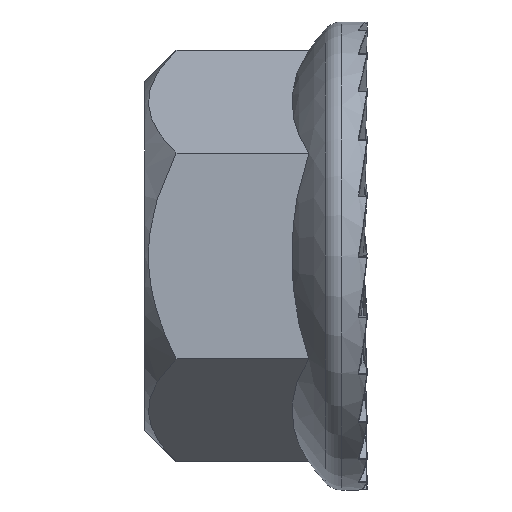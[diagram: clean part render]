
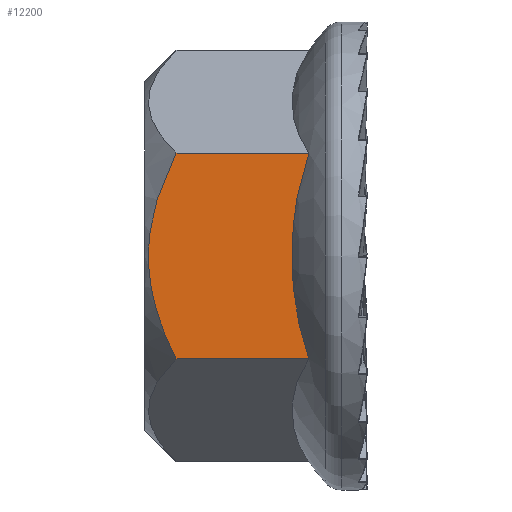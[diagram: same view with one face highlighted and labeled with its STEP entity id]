
A CAD part, left-side view. The second image highlights one B-rep face of the part: STEP entity #12200.
In plain terms, the highlighted planar face has unit normal (-1, 0, 0).
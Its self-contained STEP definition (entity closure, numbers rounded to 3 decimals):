
#78 = CARTESIAN_POINT ( 'NONE',  ( -4., 4.436, -1.573 ) ) ;
#330 = ORIENTED_EDGE ( 'NONE', *, *, #4318, .F. ) ;
#495 = CARTESIAN_POINT ( 'NONE',  ( -4., 1.344, 1.56 ) ) ;
#534 = DIRECTION ( 'NONE',  ( 0., -1., 0. ) ) ;
#886 = CARTESIAN_POINT ( 'NONE',  ( -4., 4.491, 1.382 ) ) ;
#995 = ORIENTED_EDGE ( 'NONE', *, *, #3710, .T. ) ;
#1142 = ORIENTED_EDGE ( 'NONE', *, *, #4683, .F. ) ;
#1168 = B_SPLINE_CURVE_WITH_KNOTS ( 'NONE', 3,
 ( #2125, #5783, #11534, #2889, #886, #6730, #10585, #1941, #4834, #4713, #8685, #78, #2945, #10640 ),
 .UNSPECIFIED., .F., .F.,
 ( 4, 2, 2, 2, 2, 2, 4 ),
 ( 0.006, 0.006, 0.007, 0.008, 0.009, 0.009, 0.011 ),
 .UNSPECIFIED. ) ;
#1545 = CARTESIAN_POINT ( 'NONE',  ( -4., 1.47, 0.781 ) ) ;
#1757 = CARTESIAN_POINT ( 'NONE',  ( -4., 4.8, -2.309 ) ) ;
#1941 = CARTESIAN_POINT ( 'NONE',  ( -4., 4.719, -0.199 ) ) ;
#2090 = CARTESIAN_POINT ( 'NONE',  ( -4., 1.119, 2.309 ) ) ;
#2125 = CARTESIAN_POINT ( 'NONE',  ( -4., 4.1, 2.309 ) ) ;
#2423 = CARTESIAN_POINT ( 'NONE',  ( -4., 1.249, -1.941 ) ) ;
#2629 = PLANE ( 'NONE',  #9233 ) ;
#2824 = DIRECTION ( 'NONE',  ( 1., 0., 0. ) ) ;
#2889 = CARTESIAN_POINT ( 'NONE',  ( -4., 4.423, 1.575 ) ) ;
#2945 = CARTESIAN_POINT ( 'NONE',  ( -4., 4.279, -1.951 ) ) ;
#3102 = LINE ( 'NONE', #12427, #9247 ) ;
#3189 = CARTESIAN_POINT ( 'NONE',  ( -4., 4.1, 2.309 ) ) ;
#3236 = CARTESIAN_POINT ( 'NONE',  ( -4., 4.1, -2.309 ) ) ;
#3710 = EDGE_CURVE ( 'NONE', #3794, #4521, #1168, .T. ) ;
#3794 = VERTEX_POINT ( 'NONE', #3189 ) ;
#4032 = EDGE_LOOP ( 'NONE', ( #1142, #995, #10071, #330 ) ) ;
#4260 = CARTESIAN_POINT ( 'NONE',  ( -4., 1.5, 0.389 ) ) ;
#4318 = EDGE_CURVE ( 'NONE', #7275, #6446, #7440, .T. ) ;
#4521 = VERTEX_POINT ( 'NONE', #3236 ) ;
#4683 = EDGE_CURVE ( 'NONE', #3794, #7275, #3102, .T. ) ;
#4713 = CARTESIAN_POINT ( 'NONE',  ( -4., 4.644, -0.8 ) ) ;
#4834 = CARTESIAN_POINT ( 'NONE',  ( -4., 4.703, -0.403 ) ) ;
#5285 = VECTOR ( 'NONE', #534, 1000. ) ;
#5783 = CARTESIAN_POINT ( 'NONE',  ( -4., 4.189, 2.131 ) ) ;
#6143 = CARTESIAN_POINT ( 'NONE',  ( -4., 1.119, 2.309 ) ) ;
#6264 = CARTESIAN_POINT ( 'NONE',  ( -4., 1.119, -2.309 ) ) ;
#6306 = LINE ( 'NONE', #9144, #5285 ) ;
#6446 = VERTEX_POINT ( 'NONE', #12197 ) ;
#6730 = CARTESIAN_POINT ( 'NONE',  ( -4., 4.656, 0.802 ) ) ;
#7275 = VERTEX_POINT ( 'NONE', #2090 ) ;
#7440 = B_SPLINE_CURVE_WITH_KNOTS ( 'NONE', 3,
 ( #6143, #11061, #495, #1545, #4260, #12008, #8086, #11950, #2423, #6264 ),
 .UNSPECIFIED., .F., .F.,
 ( 4, 2, 2, 2, 4 ),
 ( 0.007, 0.008, 0.009, 0.01, 0.012 ),
 .UNSPECIFIED. ) ;
#8086 = CARTESIAN_POINT ( 'NONE',  ( -4., 1.47, -0.785 ) ) ;
#8172 = FACE_OUTER_BOUND ( 'NONE', #4032, .T. ) ;
#8685 = CARTESIAN_POINT ( 'NONE',  ( -4., 4.601, -0.995 ) ) ;
#9144 = CARTESIAN_POINT ( 'NONE',  ( -4., 4.8, -2.309 ) ) ;
#9233 = AXIS2_PLACEMENT_3D ( 'NONE', #1757, #2824, #10459 ) ;
#9247 = VECTOR ( 'NONE', #10669, 1000. ) ;
#9961 = EDGE_CURVE ( 'NONE', #4521, #6446, #6306, .T. ) ;
#10071 = ORIENTED_EDGE ( 'NONE', *, *, #9961, .T. ) ;
#10459 = DIRECTION ( 'NONE',  ( 0., 0., -1. ) ) ;
#10585 = CARTESIAN_POINT ( 'NONE',  ( -4., 4.718, 0.408 ) ) ;
#10640 = CARTESIAN_POINT ( 'NONE',  ( -4., 4.1, -2.309 ) ) ;
#10669 = DIRECTION ( 'NONE',  ( 0., -1., 0. ) ) ;
#11061 = CARTESIAN_POINT ( 'NONE',  ( -4., 1.25, 1.94 ) ) ;
#11534 = CARTESIAN_POINT ( 'NONE',  ( -4., 4.273, 1.948 ) ) ;
#11950 = CARTESIAN_POINT ( 'NONE',  ( -4., 1.344, -1.562 ) ) ;
#12008 = CARTESIAN_POINT ( 'NONE',  ( -4., 1.5, -0.392 ) ) ;
#12197 = CARTESIAN_POINT ( 'NONE',  ( -4., 1.119, -2.309 ) ) ;
#12200 = ADVANCED_FACE ( 'NONE', ( #8172 ), #2629, .F. ) ;
#12427 = CARTESIAN_POINT ( 'NONE',  ( -4., 4.8, 2.309 ) ) ;
